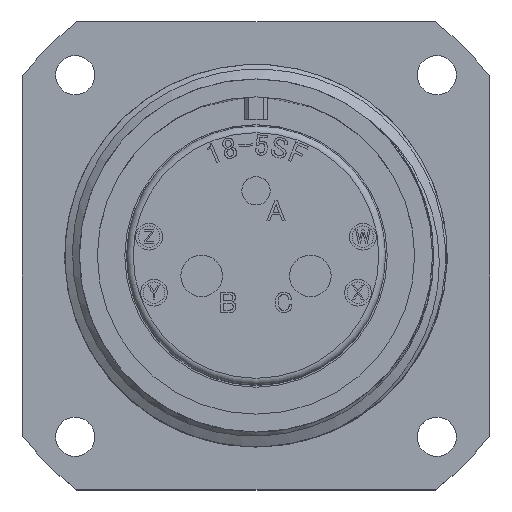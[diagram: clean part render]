
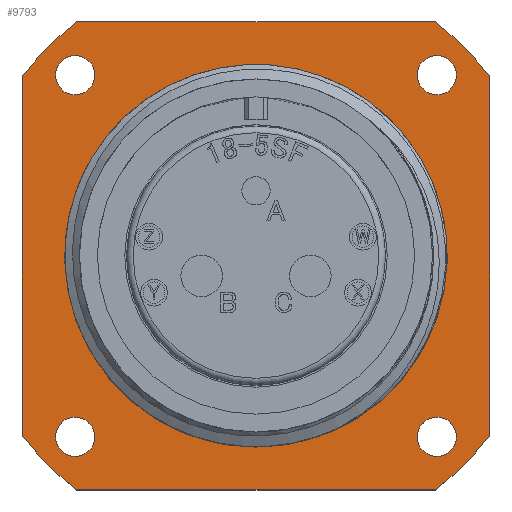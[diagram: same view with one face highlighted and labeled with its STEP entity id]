
A CAD part, top view. The second image highlights one B-rep face of the part: STEP entity #9793.
In plain terms, the highlighted planar face has unit normal (0, 0, 1).
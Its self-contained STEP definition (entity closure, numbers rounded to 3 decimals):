
#107 = CARTESIAN_POINT ( 'NONE',  ( 13.495, -13.495, -19.24 ) ) ;
#412 = CARTESIAN_POINT ( 'NONE',  ( 17.46, 13.385, -19.24 ) ) ;
#526 = CARTESIAN_POINT ( 'NONE',  ( 0., 0., -19.24 ) ) ;
#558 = VECTOR ( 'NONE', #22284, 1000. ) ;
#843 = EDGE_CURVE ( 'NONE', #5327, #5327, #4026, .T. ) ;
#1510 = CIRCLE ( 'NONE', #5768, 14.265 ) ;
#1885 = DIRECTION ( 'NONE',  ( -1., 0., 0. ) ) ;
#2127 = CARTESIAN_POINT ( 'NONE',  ( -17.46, -13.385, -19.24 ) ) ;
#2175 = EDGE_CURVE ( 'NONE', #8547, #23888, #23469, .T. ) ;
#2615 = EDGE_LOOP ( 'NONE', ( #7722 ) ) ;
#2881 = DIRECTION ( 'NONE',  ( 0., 1., 0. ) ) ;
#3068 = CIRCLE ( 'NONE', #15096, 22. ) ;
#3088 = EDGE_CURVE ( 'NONE', #15041, #8547, #7324, .T. ) ;
#3221 = FACE_BOUND ( 'NONE', #4996, .T. ) ;
#3841 = FACE_BOUND ( 'NONE', #12646, .T. ) ;
#4026 = CIRCLE ( 'NONE', #11629, 1.465 ) ;
#4213 = CARTESIAN_POINT ( 'NONE',  ( 12.03, 13.495, -19.24 ) ) ;
#4903 = VERTEX_POINT ( 'NONE', #19527 ) ;
#4996 = EDGE_LOOP ( 'NONE', ( #18589 ) ) ;
#5026 = EDGE_CURVE ( 'NONE', #8966, #8077, #10386, .T. ) ;
#5103 = CARTESIAN_POINT ( 'NONE',  ( 0., 0., -19.24 ) ) ;
#5115 = EDGE_LOOP ( 'NONE', ( #7125 ) ) ;
#5160 = EDGE_CURVE ( 'NONE', #7843, #16940, #3068, .T. ) ;
#5256 = CARTESIAN_POINT ( 'NONE',  ( 13.495, 13.495, -19.24 ) ) ;
#5327 = VERTEX_POINT ( 'NONE', #9758 ) ;
#5496 = AXIS2_PLACEMENT_3D ( 'NONE', #5103, #24360, #12676 ) ;
#5768 = AXIS2_PLACEMENT_3D ( 'NONE', #15425, #7702, #17432 ) ;
#5966 = CARTESIAN_POINT ( 'NONE',  ( -17.46, 13.385, -19.24 ) ) ;
#6000 = VECTOR ( 'NONE', #2881, 1000. ) ;
#6278 = CIRCLE ( 'NONE', #22928, 1.465 ) ;
#6551 = DIRECTION ( 'NONE',  ( 0., 0., 1. ) ) ;
#6602 = CARTESIAN_POINT ( 'NONE',  ( -13.385, -17.46, -19.24 ) ) ;
#6965 = AXIS2_PLACEMENT_3D ( 'NONE', #12870, #9315, #22902 ) ;
#7067 = DIRECTION ( 'NONE',  ( 1., 0., 0. ) ) ;
#7125 = ORIENTED_EDGE ( 'NONE', *, *, #12583, .F. ) ;
#7232 = DIRECTION ( 'NONE',  ( 0., 0., 1. ) ) ;
#7271 = CARTESIAN_POINT ( 'NONE',  ( 13.385, 17.46, -19.24 ) ) ;
#7317 = CARTESIAN_POINT ( 'NONE',  ( -13.385, -17.46, -19.24 ) ) ;
#7324 = CIRCLE ( 'NONE', #6965, 22. ) ;
#7416 = VECTOR ( 'NONE', #24213, 1000. ) ;
#7556 = DIRECTION ( 'NONE',  ( 0., 0., 1. ) ) ;
#7677 = EDGE_LOOP ( 'NONE', ( #13943, #19735, #11097, #15350, #9083, #9092, #20817, #24053 ) ) ;
#7702 = DIRECTION ( 'NONE',  ( 0., 0., 1. ) ) ;
#7722 = ORIENTED_EDGE ( 'NONE', *, *, #843, .F. ) ;
#7802 = FACE_OUTER_BOUND ( 'NONE', #7677, .T. ) ;
#7843 = VERTEX_POINT ( 'NONE', #23031 ) ;
#8077 = VERTEX_POINT ( 'NONE', #7317 ) ;
#8398 = EDGE_CURVE ( 'NONE', #4903, #8966, #10865, .T. ) ;
#8547 = VERTEX_POINT ( 'NONE', #7271 ) ;
#8795 = ORIENTED_EDGE ( 'NONE', *, *, #24596, .F. ) ;
#8877 = VECTOR ( 'NONE', #16367, 1000. ) ;
#8966 = VERTEX_POINT ( 'NONE', #2127 ) ;
#9083 = ORIENTED_EDGE ( 'NONE', *, *, #5160, .T. ) ;
#9092 = ORIENTED_EDGE ( 'NONE', *, *, #23145, .T. ) ;
#9315 = DIRECTION ( 'NONE',  ( 0., 0., 1. ) ) ;
#9758 = CARTESIAN_POINT ( 'NONE',  ( 14.96, -13.495, -19.24 ) ) ;
#9793 = ADVANCED_FACE ( 'NONE', ( #3221, #23293, #3841, #23923, #12935, #7802 ), #19796, .T. ) ;
#9846 = CARTESIAN_POINT ( 'NONE',  ( 14.265, 0., -19.24 ) ) ;
#10295 = DIRECTION ( 'NONE',  ( 1., 0., 0. ) ) ;
#10386 = CIRCLE ( 'NONE', #5496, 22. ) ;
#10681 = CARTESIAN_POINT ( 'NONE',  ( -13.385, 17.46, -19.24 ) ) ;
#10836 = VERTEX_POINT ( 'NONE', #4213 ) ;
#10865 = LINE ( 'NONE', #5966, #558 ) ;
#11097 = ORIENTED_EDGE ( 'NONE', *, *, #5026, .T. ) ;
#11629 = AXIS2_PLACEMENT_3D ( 'NONE', #107, #23708, #12030 ) ;
#11674 = CARTESIAN_POINT ( 'NONE',  ( -12.03, 13.495, -19.24 ) ) ;
#11676 = CIRCLE ( 'NONE', #14715, 22. ) ;
#12030 = DIRECTION ( 'NONE',  ( 1., 0., 0. ) ) ;
#12163 = CIRCLE ( 'NONE', #14233, 1.465 ) ;
#12583 = EDGE_CURVE ( 'NONE', #24854, #24854, #12163, .T. ) ;
#12646 = EDGE_LOOP ( 'NONE', ( #18901 ) ) ;
#12676 = DIRECTION ( 'NONE',  ( 1., 0., 0. ) ) ;
#12870 = CARTESIAN_POINT ( 'NONE',  ( 0., 0., -19.24 ) ) ;
#12935 = FACE_BOUND ( 'NONE', #5115, .T. ) ;
#13161 = LINE ( 'NONE', #6602, #7416 ) ;
#13735 = EDGE_CURVE ( 'NONE', #21139, #21139, #1510, .T. ) ;
#13943 = ORIENTED_EDGE ( 'NONE', *, *, #19762, .T. ) ;
#14090 = DIRECTION ( 'NONE',  ( 0., 0., 1. ) ) ;
#14233 = AXIS2_PLACEMENT_3D ( 'NONE', #14772, #18911, #15018 ) ;
#14715 = AXIS2_PLACEMENT_3D ( 'NONE', #22863, #22951, #7067 ) ;
#14772 = CARTESIAN_POINT ( 'NONE',  ( -13.495, 13.495, -19.24 ) ) ;
#15018 = DIRECTION ( 'NONE',  ( 1., 0., 0. ) ) ;
#15041 = VERTEX_POINT ( 'NONE', #412 ) ;
#15096 = AXIS2_PLACEMENT_3D ( 'NONE', #19726, #6551, #20236 ) ;
#15350 = ORIENTED_EDGE ( 'NONE', *, *, #20606, .T. ) ;
#15425 = CARTESIAN_POINT ( 'NONE',  ( 0., 0., -19.24 ) ) ;
#16367 = DIRECTION ( 'NONE',  ( -1., 0., 0. ) ) ;
#16940 = VERTEX_POINT ( 'NONE', #18502 ) ;
#17432 = DIRECTION ( 'NONE',  ( 1., 0., 0. ) ) ;
#18502 = CARTESIAN_POINT ( 'NONE',  ( 17.46, -13.385, -19.24 ) ) ;
#18589 = ORIENTED_EDGE ( 'NONE', *, *, #13735, .F. ) ;
#18749 = AXIS2_PLACEMENT_3D ( 'NONE', #23172, #7556, #1885 ) ;
#18901 = ORIENTED_EDGE ( 'NONE', *, *, #19350, .F. ) ;
#18911 = DIRECTION ( 'NONE',  ( 0., 0., 1. ) ) ;
#19350 = EDGE_CURVE ( 'NONE', #21779, #21779, #22364, .T. ) ;
#19527 = CARTESIAN_POINT ( 'NONE',  ( -17.46, 13.385, -19.24 ) ) ;
#19726 = CARTESIAN_POINT ( 'NONE',  ( 0., 0., -19.24 ) ) ;
#19735 = ORIENTED_EDGE ( 'NONE', *, *, #8398, .T. ) ;
#19762 = EDGE_CURVE ( 'NONE', #23888, #4903, #11676, .T. ) ;
#19796 = PLANE ( 'NONE',  #21713 ) ;
#20236 = DIRECTION ( 'NONE',  ( 1., 0., 0. ) ) ;
#20606 = EDGE_CURVE ( 'NONE', #8077, #7843, #13161, .T. ) ;
#20817 = ORIENTED_EDGE ( 'NONE', *, *, #3088, .T. ) ;
#20899 = DIRECTION ( 'NONE',  ( -1., 0., 0. ) ) ;
#21139 = VERTEX_POINT ( 'NONE', #9846 ) ;
#21713 = AXIS2_PLACEMENT_3D ( 'NONE', #526, #14090, #10295 ) ;
#21779 = VERTEX_POINT ( 'NONE', #22062 ) ;
#22015 = CARTESIAN_POINT ( 'NONE',  ( -13.385, 17.46, -19.24 ) ) ;
#22062 = CARTESIAN_POINT ( 'NONE',  ( -14.96, -13.495, -19.24 ) ) ;
#22284 = DIRECTION ( 'NONE',  ( 0., -1., 0. ) ) ;
#22364 = CIRCLE ( 'NONE', #18749, 1.465 ) ;
#22863 = CARTESIAN_POINT ( 'NONE',  ( 0., 0., -19.24 ) ) ;
#22902 = DIRECTION ( 'NONE',  ( 1., 0., 0. ) ) ;
#22928 = AXIS2_PLACEMENT_3D ( 'NONE', #5256, #7232, #20899 ) ;
#22951 = DIRECTION ( 'NONE',  ( 0., 0., 1. ) ) ;
#23031 = CARTESIAN_POINT ( 'NONE',  ( 13.385, -17.46, -19.24 ) ) ;
#23145 = EDGE_CURVE ( 'NONE', #16940, #15041, #25211, .T. ) ;
#23172 = CARTESIAN_POINT ( 'NONE',  ( -13.495, -13.495, -19.24 ) ) ;
#23293 = FACE_BOUND ( 'NONE', #2615, .T. ) ;
#23469 = LINE ( 'NONE', #10681, #8877 ) ;
#23703 = EDGE_LOOP ( 'NONE', ( #8795 ) ) ;
#23708 = DIRECTION ( 'NONE',  ( 0., 0., 1. ) ) ;
#23888 = VERTEX_POINT ( 'NONE', #22015 ) ;
#23923 = FACE_BOUND ( 'NONE', #23703, .T. ) ;
#24053 = ORIENTED_EDGE ( 'NONE', *, *, #2175, .T. ) ;
#24127 = CARTESIAN_POINT ( 'NONE',  ( 17.46, 13.385, -19.24 ) ) ;
#24213 = DIRECTION ( 'NONE',  ( 1., 0., 0. ) ) ;
#24360 = DIRECTION ( 'NONE',  ( 0., 0., 1. ) ) ;
#24596 = EDGE_CURVE ( 'NONE', #10836, #10836, #6278, .T. ) ;
#24854 = VERTEX_POINT ( 'NONE', #11674 ) ;
#25211 = LINE ( 'NONE', #24127, #6000 ) ;
